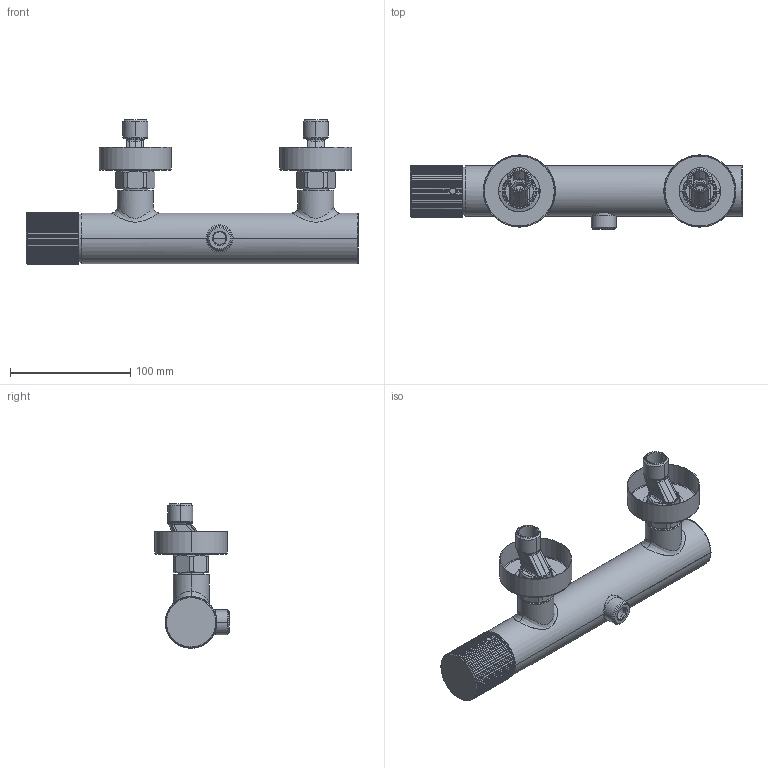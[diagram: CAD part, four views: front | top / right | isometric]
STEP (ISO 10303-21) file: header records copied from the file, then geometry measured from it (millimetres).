
FILE_DESCRIPTION((''),'2;1');
FILE_NAME('156820000_ASM','2022-08-25T17:03:46',('tec11'),(''),'CREO PARAMETRIC BY PTC INC, 2018260','CREO PARAMETRIC BY PTC INC, 2018260','');
FILE_SCHEMA(('CONFIG_CONTROL_DESIGN'));
Products named in the file (21): 201025680126; 206093230102-1; 204010509901; 205021070102; 205055110126; 208000970601; 208000160601; 208001960601; 202011070126; 205072430105; 208000230601; 205010171601; 205071571602; 205070140126; 208000210601; 207010390601; 205080171602; 206021581626; 205012081601; 202030450616; 156820000_ASM
Assembly tree (29 placements, depth 2):
  156820000_ASM
    201025680126
    206093230102-1
    204010509901
    205021070102
    205055110126
    208000970601  x2
    208000160601
    208001960601
    202011070126
    205072430105
    208000230601
    205010171601
    205071571602  x2
    205070140126  x2
    208000210601  x2
    207010390601  x2
    205080171602  x3
    206021581626  x2
    205012081601  x2
    202030450616
Bounding box: 275.85 x 61.5 x 119.99 mm (x, y, z)
Volume: 215835.7 mm3; surface area: 221584.9 mm2
Topology: 29 solids, 57 shells, 2001 faces, 4998 edges, 3116 vertices
Faces by surface type: plane 747, cylinder 516, bspline 471, cone 173, torus 86, sphere 8
Entity records: 51931 total; most frequent: CARTESIAN_POINT 21842, ORIENTED_EDGE 6238, DIRECTION 6091, EDGE_CURVE 3176, AXIS2_PLACEMENT_3D 2329, VERTEX_POINT 2006, VECTOR 1433, LINE 1433
